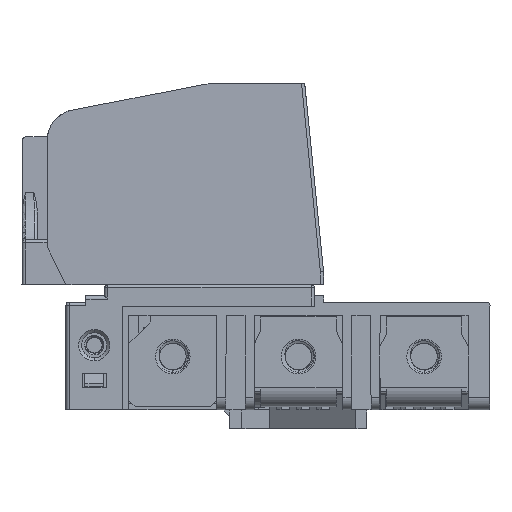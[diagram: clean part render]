
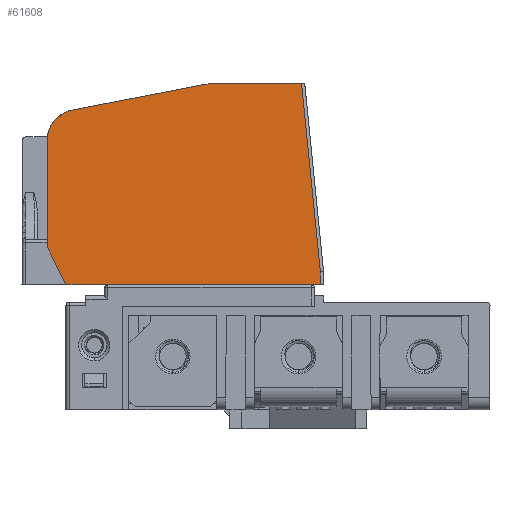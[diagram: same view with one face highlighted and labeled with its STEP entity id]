
A CAD part, front view. The second image highlights one B-rep face of the part: STEP entity #61608.
In plain terms, the highlighted planar face has unit normal (0, -1, 0.004).
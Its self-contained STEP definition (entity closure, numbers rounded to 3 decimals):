
#12693=DIRECTION('',(1.,0.,0.));
#12694=VECTOR('',#12693,13.535);
#12695=CARTESIAN_POINT('',(-6.286,-39.659,27.5));
#12696=LINE('',#12695,#12694);
#12727=DIRECTION('',(-0.1,0.004,0.995));
#12728=VECTOR('',#12727,30.173);
#12729=CARTESIAN_POINT('',(10.251,-39.79,
-2.523));
#12730=LINE('',#12729,#12728);
#12731=DIRECTION('',(1.,0.,0.));
#12732=VECTOR('',#12731,8.15);
#12733=CARTESIAN_POINT('',(-30.249,-39.799,
-4.55));
#12734=LINE('',#12733,#12732);
#12735=DIRECTION('',(0.447,-0.004,-0.894));
#12736=VECTOR('',#12735,6.708);
#12737=CARTESIAN_POINT('',(-33.249,-39.773,1.45));
#12738=LINE('',#12737,#12736);
#12739=DIRECTION('',(-0.982,-0.001,-0.191));
#12740=VECTOR('',#12739,21.402);
#12741=CARTESIAN_POINT('',(-8.194,-39.66,
27.316));
#12742=LINE('',#12741,#12740);
#12743=CARTESIAN_POINT('',(-6.286,-39.659,27.5));
#12744=CARTESIAN_POINT('',(-6.928,-39.659,27.5));
#12745=CARTESIAN_POINT('',(-7.564,-39.659,
27.439));
#12746=CARTESIAN_POINT('',(-8.194,-39.66,
27.316));
#12752=DIRECTION('',(0.,-0.004,-1.));
#12753=VECTOR('',#12752,2.027);
#12754=CARTESIAN_POINT('',(10.251,-39.79,
-2.523));
#12755=LINE('',#12754,#12753);
#12815=DIRECTION('',(-1.,0.,0.));
#12816=VECTOR('',#12815,2.95);
#12817=CARTESIAN_POINT('',(10.251,-39.799,
-4.55));
#12818=LINE('',#12817,#12816);
#12969=DIRECTION('',(0.,-0.004,-1.));
#12970=VECTOR('',#12969,0.5);
#12971=CARTESIAN_POINT('',(7.301,-39.799,
-4.55));
#12972=LINE('',#12971,#12970);
#18554=CARTESIAN_POINT('',(-22.099,-39.801,-5.05));
#18555=CARTESIAN_POINT('',(-22.099,-39.8,
-4.883));
#18556=CARTESIAN_POINT('',(-22.099,-39.8,
-4.717));
#18557=CARTESIAN_POINT('',(-22.099,-39.799,
-4.55));
#18579=DIRECTION('',(0.,0.004,1.));
#18580=VECTOR('',#18579,16.875);
#18581=CARTESIAN_POINT('',(-33.249,-39.773,1.45));
#18582=LINE('',#18581,#18580);
#18619=CARTESIAN_POINT('',(-33.249,-39.699,
18.324));
#18620=CARTESIAN_POINT('',(-33.249,-39.696,
19.011));
#18621=CARTESIAN_POINT('',(-32.99,-39.691,
20.172));
#18622=CARTESIAN_POINT('',(-32.171,-39.685,
21.558));
#18623=CARTESIAN_POINT('',(-30.967,-39.68,
22.626));
#18624=CARTESIAN_POINT('',(-29.877,-39.678,
23.101));
#18625=CARTESIAN_POINT('',(-29.203,-39.678,
23.233));
#18647=CARTESIAN_POINT('',(-21.599,-39.799,-4.55));
#18648=CARTESIAN_POINT('',(-21.766,-39.799,-4.55));
#18649=CARTESIAN_POINT('',(-21.973,-39.799,
-4.676));
#18650=CARTESIAN_POINT('',(-22.099,-39.8,
-4.883));
#18651=CARTESIAN_POINT('',(-22.099,-39.801,-5.05));
#18657=DIRECTION('',(-1.,0.,0.));
#18658=VECTOR('',#18657,28.4);
#18659=CARTESIAN_POINT('',(6.801,-39.799,
-4.55));
#18660=LINE('',#18659,#18658);
#18683=CARTESIAN_POINT('',(7.301,-39.801,-5.05));
#18684=CARTESIAN_POINT('',(7.301,-39.8,
-4.883));
#18685=CARTESIAN_POINT('',(7.175,-39.799,
-4.676));
#18686=CARTESIAN_POINT('',(6.968,-39.799,-4.55));
#18687=CARTESIAN_POINT('',(6.801,-39.799,-4.55));
#35726=CARTESIAN_POINT('',(-30.249,-39.799,
-4.55));
#35727=VERTEX_POINT('',#35726);
#35728=CARTESIAN_POINT('',(-22.099,-39.799,
-4.55));
#35729=VERTEX_POINT('',#35728);
#35738=CARTESIAN_POINT('',(-33.249,-39.773,1.45));
#35739=VERTEX_POINT('',#35738);
#35740=CARTESIAN_POINT('',(10.251,-39.79,
-2.523));
#35741=CARTESIAN_POINT('',(10.251,-39.799,
-4.55));
#35742=VERTEX_POINT('',#35740);
#35743=VERTEX_POINT('',#35741);
#35744=CARTESIAN_POINT('',(7.301,-39.799,
-4.55));
#35745=VERTEX_POINT('',#35744);
#35746=CARTESIAN_POINT('',(7.301,-39.801,-5.05));
#35747=VERTEX_POINT('',#35746);
#35748=VERTEX_POINT('',#18687);
#35749=CARTESIAN_POINT('',(-21.599,-39.799,
-4.55));
#35750=VERTEX_POINT('',#35749);
#35751=VERTEX_POINT('',#18651);
#35752=CARTESIAN_POINT('',(-33.249,-39.699,
18.324));
#35753=VERTEX_POINT('',#35752);
#35754=VERTEX_POINT('',#18625);
#35755=CARTESIAN_POINT('',(-8.194,-39.66,
27.316));
#35756=VERTEX_POINT('',#35755);
#35757=VERTEX_POINT('',#12743);
#35758=CARTESIAN_POINT('',(7.249,-39.659,27.5));
#35759=VERTEX_POINT('',#35758);
#61573=CARTESIAN_POINT('',(-7.399,-39.799,-4.55));
#61574=DIRECTION('',(0.,-1.,0.004));
#61575=DIRECTION('',(0.,-0.004,-1.));
#61576=AXIS2_PLACEMENT_3D('',#61573,#61574,#61575);
#61577=PLANE('',#61576);
#61578=ORIENTED_EDGE('',*,*,#61563,.F.);
#61580=ORIENTED_EDGE('',*,*,#61579,.T.);
#61582=ORIENTED_EDGE('',*,*,#61581,.T.);
#61584=ORIENTED_EDGE('',*,*,#61583,.T.);
#61586=ORIENTED_EDGE('',*,*,#61585,.T.);
#61588=ORIENTED_EDGE('',*,*,#61587,.T.);
#61590=ORIENTED_EDGE('',*,*,#61589,.T.);
#61592=ORIENTED_EDGE('',*,*,#61591,.T.);
#61594=ORIENTED_EDGE('',*,*,#61593,.F.);
#61596=ORIENTED_EDGE('',*,*,#61595,.F.);
#61598=ORIENTED_EDGE('',*,*,#61597,.T.);
#61600=ORIENTED_EDGE('',*,*,#61599,.T.);
#61602=ORIENTED_EDGE('',*,*,#61601,.F.);
#61604=ORIENTED_EDGE('',*,*,#61603,.F.);
#61605=ORIENTED_EDGE('',*,*,#61525,.T.);
#61606=EDGE_LOOP('',(#61578,#61580,#61582,#61584,#61586,#61588,#61590,#61592,
#61594,#61596,#61598,#61600,#61602,#61604,#61605));
#61607=FACE_OUTER_BOUND('',#61606,.F.);
#61608=ADVANCED_FACE('',(#61607),#61577,.T.);
#12747=B_SPLINE_CURVE_WITH_KNOTS('',3,(#12743,#12744,#12745,#12746),
.UNSPECIFIED.,.F.,.F.,(4,4),(0.,1.),.UNSPECIFIED.);
#18558=B_SPLINE_CURVE_WITH_KNOTS('',3,(#18554,#18555,#18556,#18557),
.UNSPECIFIED.,.F.,.F.,(4,4),(0.,1.),.UNSPECIFIED.);
#18626=B_SPLINE_CURVE_WITH_KNOTS('',3,(#18619,#18620,#18621,#18622,#18623,
#18624,#18625),.UNSPECIFIED.,.F.,.F.,(4,1,1,1,4),(0.,0.25,0.5,0.75,
1.),.UNSPECIFIED.);
#18652=B_SPLINE_CURVE_WITH_KNOTS('',3,(#18647,#18648,#18649,#18650,#18651),
.UNSPECIFIED.,.F.,.F.,(4,1,4),(0.,0.5,1.),.UNSPECIFIED.);
#18688=B_SPLINE_CURVE_WITH_KNOTS('',3,(#18683,#18684,#18685,#18686,#18687),
.UNSPECIFIED.,.F.,.F.,(4,1,4),(0.,0.5,1.),.UNSPECIFIED.);
#61525=EDGE_CURVE('',#35757,#35759,#12696,.T.);
#61563=EDGE_CURVE('',#35742,#35759,#12730,.T.);
#61579=EDGE_CURVE('',#35742,#35743,#12755,.T.);
#61581=EDGE_CURVE('',#35743,#35745,#12818,.T.);
#61583=EDGE_CURVE('',#35745,#35747,#12972,.T.);
#61585=EDGE_CURVE('',#35747,#35748,#18688,.T.);
#61587=EDGE_CURVE('',#35748,#35750,#18660,.T.);
#61589=EDGE_CURVE('',#35750,#35751,#18652,.T.);
#61591=EDGE_CURVE('',#35751,#35729,#18558,.T.);
#61593=EDGE_CURVE('',#35727,#35729,#12734,.T.);
#61595=EDGE_CURVE('',#35739,#35727,#12738,.T.);
#61597=EDGE_CURVE('',#35739,#35753,#18582,.T.);
#61599=EDGE_CURVE('',#35753,#35754,#18626,.T.);
#61601=EDGE_CURVE('',#35756,#35754,#12742,.T.);
#61603=EDGE_CURVE('',#35757,#35756,#12747,.T.);
